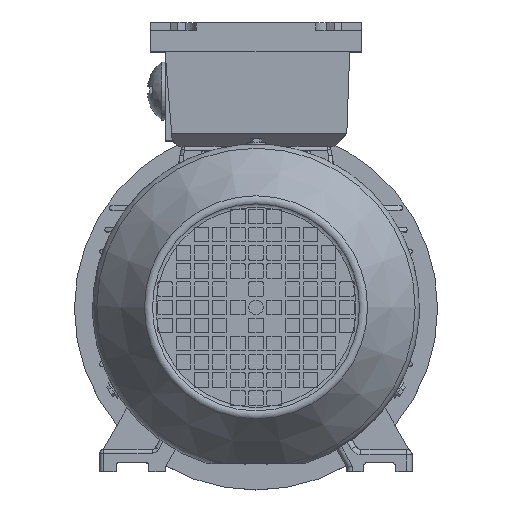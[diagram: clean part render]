
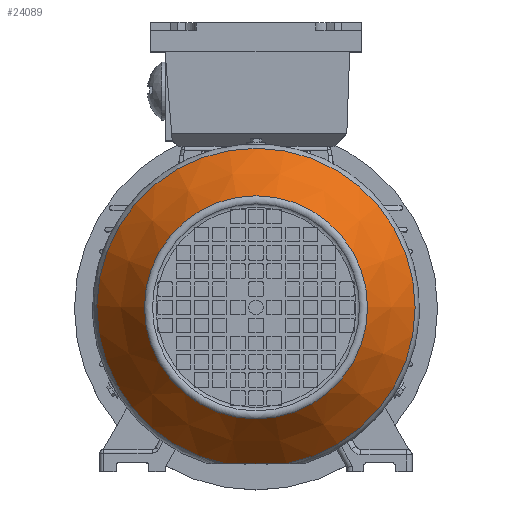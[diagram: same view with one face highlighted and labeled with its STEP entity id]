
A CAD part, top view. The second image highlights one B-rep face of the part: STEP entity #24089.
In plain terms, the highlighted conical face has half-angle 35 degrees and reference radius 87.649 mm.
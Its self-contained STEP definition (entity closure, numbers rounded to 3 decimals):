
#106=(
BOUNDED_CURVE()
B_SPLINE_CURVE(2,(#35452,#35453,#35454),.UNSPECIFIED.,.F.,.F.)
B_SPLINE_CURVE_WITH_KNOTS((3,3),(6.234,10.645),
 .UNSPECIFIED.)
CURVE()
GEOMETRIC_REPRESENTATION_ITEM()
RATIONAL_B_SPLINE_CURVE((1.15,1.173,1.15))
REPRESENTATION_ITEM('')
);
#1355=CONICAL_SURFACE('',#25629,87.649,0.611);
#1445=FACE_OUTER_BOUND('',#2869,.T.);
#2869=EDGE_LOOP('',(#16385,#16386,#16387,#16388,#16389,#16390));
#4402=LINE('',#35456,#6700);
#6700=VECTOR('',#28260,87.649);
#9065=CIRCLE('',#25627,61.457);
#9067=CIRCLE('',#25630,87.649);
#9068=CIRCLE('',#25631,87.649);
#10120=VERTEX_POINT('',#35444);
#10121=VERTEX_POINT('',#35448);
#10122=VERTEX_POINT('',#35449);
#10123=VERTEX_POINT('',#35451);
#12584=EDGE_CURVE('',#10120,#10120,#9065,.T.);
#12586=EDGE_CURVE('',#10121,#10122,#9067,.T.);
#12587=EDGE_CURVE('',#10123,#10121,#106,.T.);
#12588=EDGE_CURVE('',#10122,#10123,#9068,.T.);
#12589=EDGE_CURVE('',#10122,#10120,#4402,.T.);
#16385=ORIENTED_EDGE('',*,*,#12586,.F.);
#16386=ORIENTED_EDGE('',*,*,#12587,.F.);
#16387=ORIENTED_EDGE('',*,*,#12588,.F.);
#16388=ORIENTED_EDGE('',*,*,#12589,.T.);
#16389=ORIENTED_EDGE('',*,*,#12584,.T.);
#16390=ORIENTED_EDGE('',*,*,#12589,.F.);
#24089=ADVANCED_FACE('',(#1445),#1355,.T.);
#25627=AXIS2_PLACEMENT_3D('',#35445,#28250,#28251);
#25629=AXIS2_PLACEMENT_3D('',#35447,#28254,#28255);
#25630=AXIS2_PLACEMENT_3D('',#35450,#28256,#28257);
#25631=AXIS2_PLACEMENT_3D('',#35455,#28258,#28259);
#28250=DIRECTION('center_axis',(0.,0.,-1.));
#28251=DIRECTION('ref_axis',(-1.,0.,0.));
#28254=DIRECTION('center_axis',(0.,0.,-1.));
#28255=DIRECTION('ref_axis',(-1.,0.,0.));
#28256=DIRECTION('center_axis',(0.,0.,-1.));
#28257=DIRECTION('ref_axis',(-1.,0.,0.));
#28258=DIRECTION('center_axis',(0.,0.,-1.));
#28259=DIRECTION('ref_axis',(-1.,0.,0.));
#28260=DIRECTION('',(-0.574,0.,0.819));
#35444=CARTESIAN_POINT('',(61.457,0.,185.721));
#35445=CARTESIAN_POINT('Origin',(0.,0.,185.721));
#35447=CARTESIAN_POINT('Origin',(0.,0.,148.315));
#35448=CARTESIAN_POINT('',(-16.922,-86.,148.315));
#35449=CARTESIAN_POINT('',(87.649,0.,148.315));
#35450=CARTESIAN_POINT('Origin',(0.,0.,148.315));
#35451=CARTESIAN_POINT('',(16.922,-86.,148.315));
#35452=CARTESIAN_POINT('Ctrl Pts',(16.922,-86.,148.315));
#35453=CARTESIAN_POINT('Ctrl Pts',(0.,-86.,152.981));
#35454=CARTESIAN_POINT('Ctrl Pts',(-16.922,-86.,148.315));
#35455=CARTESIAN_POINT('Origin',(0.,0.,148.315));
#35456=CARTESIAN_POINT('',(87.649,0.,148.315));
